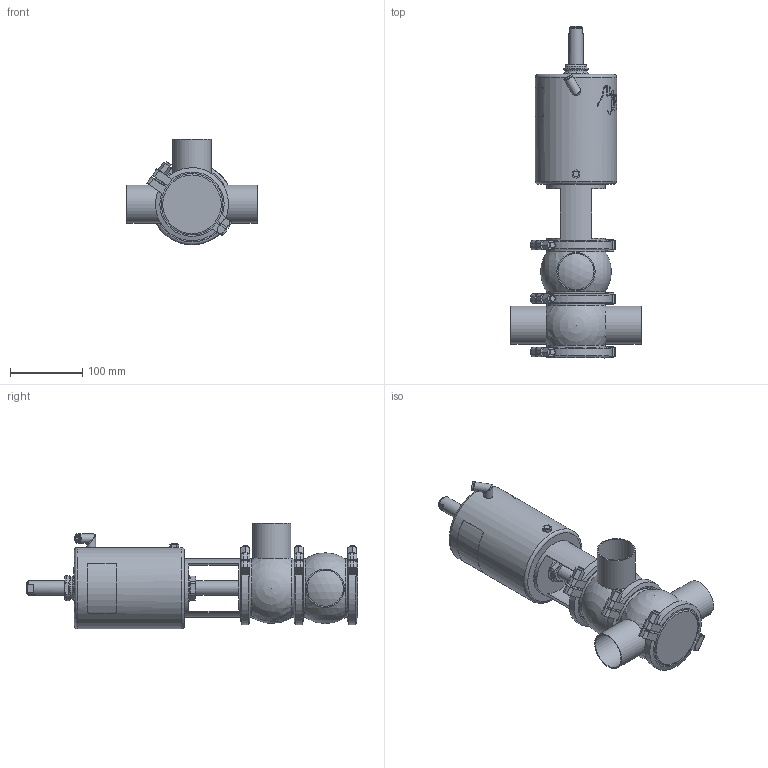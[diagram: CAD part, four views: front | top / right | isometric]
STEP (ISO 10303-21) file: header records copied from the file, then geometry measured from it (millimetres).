
FILE_DESCRIPTION (( 'STEP AP214' ), '1' );
FILE_NAME ('INNOVA M B W DIN 050 T2 AS NC_10.241.16.0004.STEP', '2024-08-07T13:06:36', ( '' ), ( '' ), 'SwSTEP 2.0', 'SolidWorks 2023', '' );
FILE_SCHEMA (( 'AUTOMOTIVE_DESIGN' ));
Length unit declared in the file: millimetre
Products named in the file (7): 10.240.15.0010_DN 050; 10.240.15.0001_DN 050; 10.240.15.0014_T2 AS P180; 10.241.15.0001_DIN 050; INNOVA M B W DIN 050 T2 AS NC_10.241.16.0004; 10.240.15.0007_DIN 050; 10.240.15.0006_DIN 050
Assembly tree (8 placements, depth 2):
  INNOVA M B W DIN 050 T2 AS NC_10.241.16.0004
    10.240.15.0006_DIN 050
    10.240.15.0007_DIN 050
    10.240.15.0010_DN 050
    10.240.15.0014_T2 AS P180
    10.240.15.0001_DN 050  x3
    10.241.15.0001_DIN 050
Bounding box: 180 x 459.27 x 146.25 mm (x, y, z)
Volume: 2801827.5 mm3; surface area: 312781.4 mm2
Topology: 9 solids, 9 shells, 463 faces, 1219 edges, 795 vertices
Faces by surface type: plane 226, cylinder 112, bspline 80, cone 36, sphere 5, torus 4
Full cylindrical faces by diameter (mm): 6.15 x1, 8 x7, 8.5 x1, 10.5 x1, 12.5 x3, 16 x1, 20 x2, 31 x1, 34.5 x2, 36.5 x1, 50 x3, 53 x3, 81 x6, 93 x6, 112.5 x1
Entity records: 20726 total; most frequent: CARTESIAN_POINT 11311, ORIENTED_EDGE 1624, DIRECTION 1271, EDGE_CURVE 812, VERTEX_POINT 563, AXIS2_PLACEMENT_3D 491, EDGE_LOOP 431, FACE_OUTER_BOUND 386
